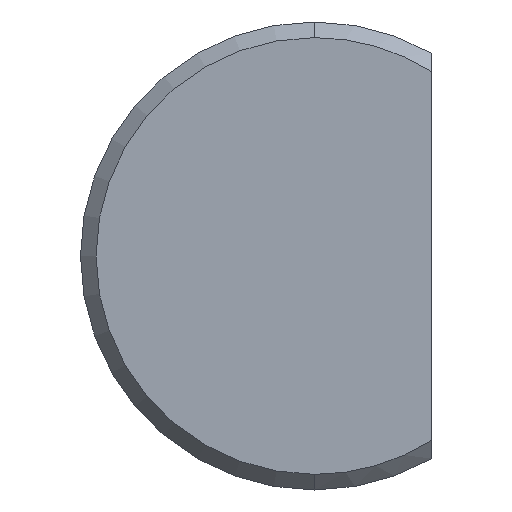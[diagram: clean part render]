
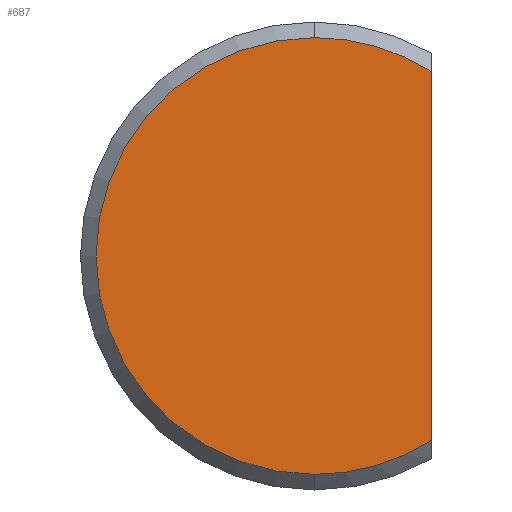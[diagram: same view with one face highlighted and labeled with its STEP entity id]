
A CAD part, front view. The second image highlights one B-rep face of the part: STEP entity #687.
In plain terms, the highlighted planar face has unit normal (0, -1, 0).
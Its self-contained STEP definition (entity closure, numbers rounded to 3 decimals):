
#5 = CARTESIAN_POINT ( 'NONE',  ( 0., 0., 0. ) ) ;
#26 = DIRECTION ( 'NONE',  ( 0., 0., 1. ) ) ;
#43 = CARTESIAN_POINT ( 'NONE',  ( 0., 0., 0. ) ) ;
#48 = CARTESIAN_POINT ( 'NONE',  ( 0., 0., 0. ) ) ;
#50 = DIRECTION ( 'NONE',  ( 0., 0., -1. ) ) ;
#121 = CARTESIAN_POINT ( 'NONE',  ( 0., 0., 0. ) ) ;
#134 = AXIS2_PLACEMENT_3D ( 'NONE', #48, #446, #450 ) ;
#152 = EDGE_CURVE ( 'NONE', #191, #355, #174, .T. ) ;
#174 = CIRCLE ( 'NONE', #392, 2.8 ) ;
#191 = VERTEX_POINT ( 'NONE', #324 ) ;
#249 = PLANE ( 'NONE',  #558 ) ;
#259 = DIRECTION ( 'NONE',  ( 0., -1., 0. ) ) ;
#279 = DIRECTION ( 'NONE',  ( 0., -1., 0. ) ) ;
#288 = ORIENTED_EDGE ( 'NONE', *, *, #152, .T. ) ;
#289 = EDGE_CURVE ( 'NONE', #355, #299, #449, .T. ) ;
#290 = LINE ( 'NONE', #560, #393 ) ;
#299 = VERTEX_POINT ( 'NONE', #489 ) ;
#302 = VERTEX_POINT ( 'NONE', #394 ) ;
#311 = DIRECTION ( 'NONE',  ( 0., 0., -1. ) ) ;
#324 = CARTESIAN_POINT ( 'NONE',  ( 1.5, 0., 2.364 ) ) ;
#353 = EDGE_CURVE ( 'NONE', #299, #302, #411, .T. ) ;
#355 = VERTEX_POINT ( 'NONE', #593 ) ;
#380 = DIRECTION ( 'NONE',  ( 0., 0., -1. ) ) ;
#392 = AXIS2_PLACEMENT_3D ( 'NONE', #121, #546, #50 ) ;
#393 = VECTOR ( 'NONE', #26, 1000. ) ;
#394 = CARTESIAN_POINT ( 'NONE',  ( 1.5, 0., -2.364 ) ) ;
#411 = CIRCLE ( 'NONE', #423, 2.8 ) ;
#423 = AXIS2_PLACEMENT_3D ( 'NONE', #5, #279, #380 ) ;
#446 = DIRECTION ( 'NONE',  ( 0., -1., 0. ) ) ;
#449 = CIRCLE ( 'NONE', #134, 2.8 ) ;
#450 = DIRECTION ( 'NONE',  ( 0., 0., -1. ) ) ;
#453 = EDGE_LOOP ( 'NONE', ( #288, #499, #480, #642 ) ) ;
#480 = ORIENTED_EDGE ( 'NONE', *, *, #353, .T. ) ;
#489 = CARTESIAN_POINT ( 'NONE',  ( 0., 0., -2.8 ) ) ;
#499 = ORIENTED_EDGE ( 'NONE', *, *, #289, .T. ) ;
#503 = EDGE_CURVE ( 'NONE', #302, #191, #290, .T. ) ;
#546 = DIRECTION ( 'NONE',  ( 0., -1., 0. ) ) ;
#558 = AXIS2_PLACEMENT_3D ( 'NONE', #43, #259, #311 ) ;
#560 = CARTESIAN_POINT ( 'NONE',  ( 1.5, 0., -2.598 ) ) ;
#593 = CARTESIAN_POINT ( 'NONE',  ( 0., 0., 2.8 ) ) ;
#642 = ORIENTED_EDGE ( 'NONE', *, *, #503, .T. ) ;
#643 = FACE_OUTER_BOUND ( 'NONE', #453, .T. ) ;
#687 = ADVANCED_FACE ( 'NONE', ( #643 ), #249, .T. ) ;
